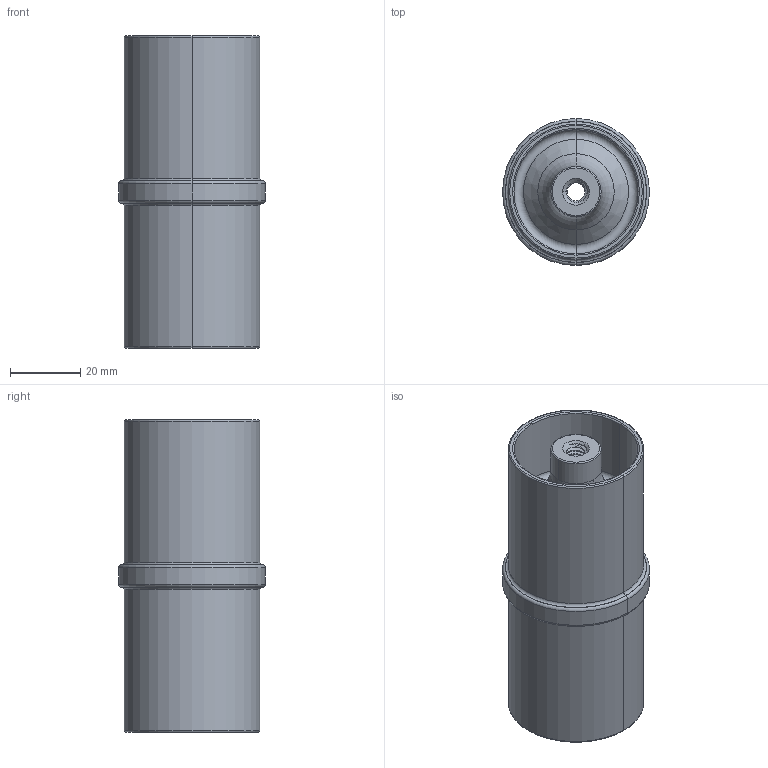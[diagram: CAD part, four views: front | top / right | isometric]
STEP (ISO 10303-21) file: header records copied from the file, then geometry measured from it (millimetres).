
FILE_DESCRIPTION (( 'STEP AP203' ), '1' );
FILE_NAME ('EBAY_INTERFACE.STEP', '2024-03-01T15:13:10', ( '' ), ( '' ), 'SwSTEP 2.0', 'SolidWorks 2020', '' );
FILE_SCHEMA (( 'CONFIG_CONTROL_DESIGN' ));
Length unit declared in the file: inch
Products named in the file (1): EBAY_INTERFACE
Bounding box: 41.78 x 41.78 x 88.9 mm (x, y, z)
Volume: 25008.7 mm3; surface area: 24242.9 mm2
Topology: 1 solids, 1 shells, 114 faces, 278 edges, 167 vertices
Faces by surface type: cylinder 48, torus 34, bspline 14, plane 12, cone 6
Entity records: 5753 total; most frequent: CARTESIAN_POINT 3166, ORIENTED_EDGE 552, DIRECTION 529, EDGE_CURVE 276, AXIS2_PLACEMENT_3D 230, VERTEX_POINT 167, CIRCLE 129, EDGE_LOOP 121
